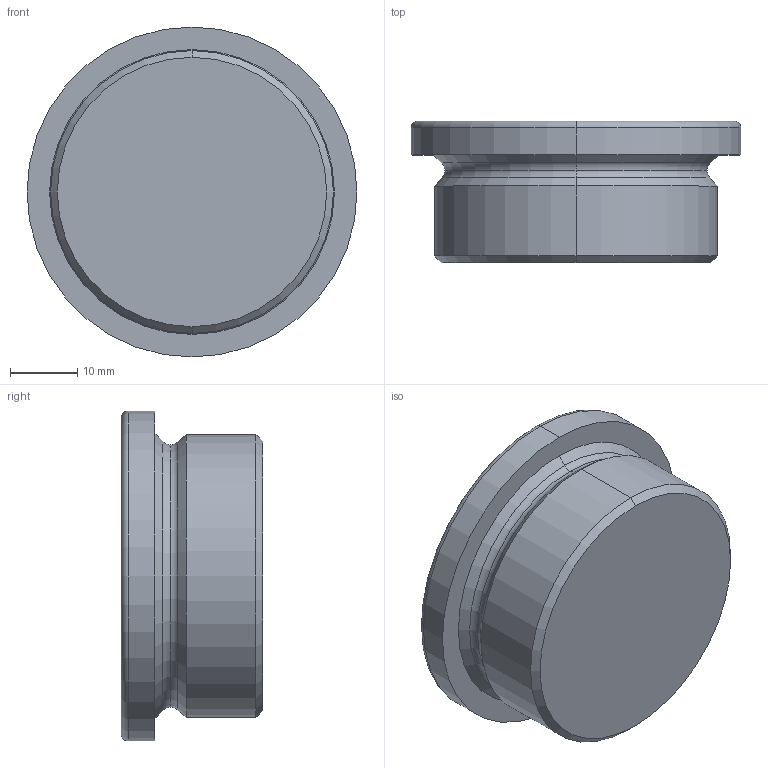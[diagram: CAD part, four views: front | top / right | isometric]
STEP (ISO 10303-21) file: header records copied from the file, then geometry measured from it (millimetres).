
FILE_DESCRIPTION (( 'STEP AP214' ), '1' );
FILE_NAME ('908-ST-M42x2-A.step', '2024-12-19T09:17:27', ( '' ), ( '' ), 'SwSTEP 2.0', 'SolidWorks 2022', '' );
FILE_SCHEMA (( 'AUTOMOTIVE_DESIGN' ));
Length unit declared in the file: millimetre
Products named in the file (1): 908-ST-M42x2-A
Bounding box: 49 x 21 x 49 mm (x, y, z)
Volume: 26559 mm3; surface area: 7405.4 mm2
Topology: 1 solids, 1 shells, 26 faces, 54 edges, 32 vertices
Faces by surface type: plane 10, torus 6, cone 6, cylinder 4
Entity records: 744 total; most frequent: DIRECTION 134, CARTESIAN_POINT 113, ORIENTED_EDGE 108, EDGE_CURVE 54, AXIS2_PLACEMENT_3D 53, VERTEX_POINT 32, EDGE_LOOP 28, LINE 28
